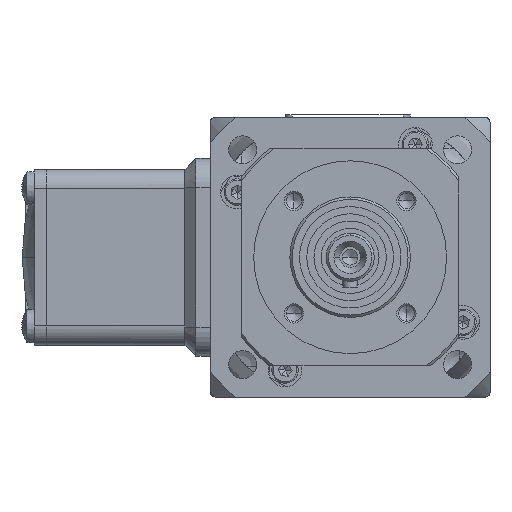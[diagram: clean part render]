
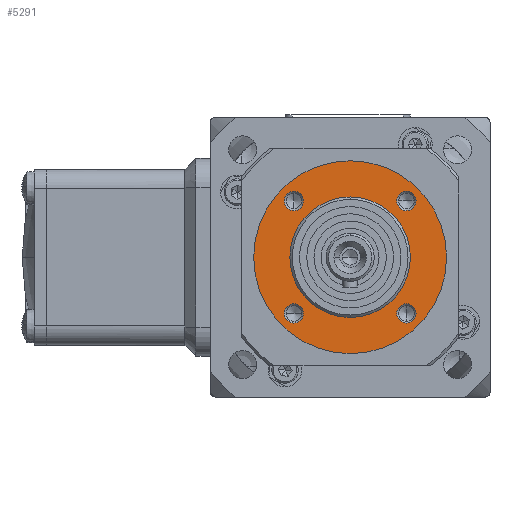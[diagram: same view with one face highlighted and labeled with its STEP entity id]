
A CAD part, left-side view. The second image highlights one B-rep face of the part: STEP entity #5291.
In plain terms, the highlighted planar face has unit normal (-1, 0, 0).
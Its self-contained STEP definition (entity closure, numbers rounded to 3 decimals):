
#5291=ADVANCED_FACE('',(#8640,#8641,#8642,#8643,#8644,#8645),#8646,.T.);
#8640=FACE_OUTER_BOUND('',#13762,.T.);
#8641=FACE_BOUND('',#13763,.T.);
#8642=FACE_BOUND('',#13764,.T.);
#8643=FACE_BOUND('',#13765,.T.);
#8644=FACE_BOUND('',#13766,.T.);
#8645=FACE_BOUND('',#13767,.T.);
#8646=PLANE('',#13768);
#13762=EDGE_LOOP('',(#18418,#18419));
#13763=EDGE_LOOP('',(#18420,#18421));
#13764=EDGE_LOOP('',(#18422,#18423));
#13765=EDGE_LOOP('',(#18424,#18425));
#13766=EDGE_LOOP('',(#18426,#18427));
#13767=EDGE_LOOP('',(#18428,#18429));
#13768=AXIS2_PLACEMENT_3D('',#18430,#18431,#18432);
#18418=ORIENTED_EDGE('',*,*,#20826,.F.);
#18419=ORIENTED_EDGE('',*,*,#20953,.F.);
#18420=ORIENTED_EDGE('',*,*,#22569,.T.);
#18421=ORIENTED_EDGE('',*,*,#21784,.T.);
#18422=ORIENTED_EDGE('',*,*,#21871,.T.);
#18423=ORIENTED_EDGE('',*,*,#22570,.T.);
#18424=ORIENTED_EDGE('',*,*,#21649,.T.);
#18425=ORIENTED_EDGE('',*,*,#22571,.T.);
#18426=ORIENTED_EDGE('',*,*,#21498,.T.);
#18427=ORIENTED_EDGE('',*,*,#22572,.T.);
#18428=ORIENTED_EDGE('',*,*,#21668,.T.);
#18429=ORIENTED_EDGE('',*,*,#21183,.T.);
#18430=CARTESIAN_POINT('',(-133.625,0.,-72.125));
#18431=DIRECTION('',(-1.0,0.0,0.0));
#18432=DIRECTION('',(0.0,1.0,0.));
#20826=EDGE_CURVE('',#24150,#24145,#24152,.T.);
#20953=EDGE_CURVE('',#24145,#24150,#24376,.T.);
#21183=EDGE_CURVE('',#24750,#24754,#24756,.T.);
#21498=EDGE_CURVE('',#25285,#25283,#25286,.T.);
#21649=EDGE_CURVE('',#25540,#25538,#25541,.T.);
#21668=EDGE_CURVE('',#24754,#24750,#25572,.T.);
#21784=EDGE_CURVE('',#25762,#25764,#25766,.T.);
#21871=EDGE_CURVE('',#25913,#25911,#25914,.T.);
#22569=EDGE_CURVE('',#25764,#25762,#27059,.T.);
#22570=EDGE_CURVE('',#25911,#25913,#27060,.T.);
#22571=EDGE_CURVE('',#25538,#25540,#27061,.T.);
#22572=EDGE_CURVE('',#25283,#25285,#27062,.T.);
#24145=VERTEX_POINT('',#29740);
#24150=VERTEX_POINT('',#29746);
#24152=CIRCLE('',#29749,20.0);
#24376=CIRCLE('',#30111,20.0);
#24750=VERTEX_POINT('',#30718);
#24754=VERTEX_POINT('',#30723);
#24756=CIRCLE('',#30726,12.5);
#25283=VERTEX_POINT('',#31600);
#25285=VERTEX_POINT('',#31603);
#25286=CIRCLE('',#31604,2.0);
#25538=VERTEX_POINT('',#31986);
#25540=VERTEX_POINT('',#31989);
#25541=CIRCLE('',#31990,2.0);
#25572=CIRCLE('',#32032,12.5);
#25762=VERTEX_POINT('',#32350);
#25764=VERTEX_POINT('',#32353);
#25766=CIRCLE('',#32356,2.0);
#25911=VERTEX_POINT('',#32569);
#25913=VERTEX_POINT('',#32572);
#25914=CIRCLE('',#32573,2.0);
#27059=CIRCLE('',#34466,2.0);
#27060=CIRCLE('',#34467,2.0);
#27061=CIRCLE('',#34468,2.0);
#27062=CIRCLE('',#34469,2.0);
#29740=CARTESIAN_POINT('',(-133.625,0.,-82.125));
#29746=CARTESIAN_POINT('',(-133.625,0.,-42.125));
#29749=AXIS2_PLACEMENT_3D('',#38299,#38300,#38301);
#30111=AXIS2_PLACEMENT_3D('',#38494,#38495,#38496);
#30718=CARTESIAN_POINT('',(-133.625,0.,-74.625));
#30723=CARTESIAN_POINT('',(-133.625,0.,-49.625));
#30726=AXIS2_PLACEMENT_3D('',#38733,#38734,#38735);
#31600=CARTESIAN_POINT('',(-133.625,13.667,-73.792));
#31603=CARTESIAN_POINT('',(-133.625,9.667,-73.792));
#31604=AXIS2_PLACEMENT_3D('',#39120,#39121,#39122);
#31986=CARTESIAN_POINT('',(-133.625,11.667,-48.458));
#31989=CARTESIAN_POINT('',(-133.625,11.667,-52.458));
#31990=AXIS2_PLACEMENT_3D('',#39293,#39294,#39295);
#32032=AXIS2_PLACEMENT_3D('',#39313,#39314,#39315);
#32350=CARTESIAN_POINT('',(-133.625,-11.667,-75.792));
#32353=CARTESIAN_POINT('',(-133.625,-11.667,-71.792));
#32356=AXIS2_PLACEMENT_3D('',#39430,#39431,#39432);
#32569=CARTESIAN_POINT('',(-133.625,-13.667,-50.458));
#32572=CARTESIAN_POINT('',(-133.625,-9.667,-50.458));
#32573=AXIS2_PLACEMENT_3D('',#39542,#39543,#39544);
#34466=AXIS2_PLACEMENT_3D('',#40340,#40341,#40342);
#34467=AXIS2_PLACEMENT_3D('',#40343,#40344,#40345);
#34468=AXIS2_PLACEMENT_3D('',#40346,#40347,#40348);
#34469=AXIS2_PLACEMENT_3D('',#40349,#40350,#40351);
#38299=CARTESIAN_POINT('',(-133.625,0.0,-62.125));
#38300=DIRECTION('',(1.0,0.0,0.0));
#38301=DIRECTION('',(0.0,0.,-1.0));
#38494=CARTESIAN_POINT('',(-133.625,0.0,-62.125));
#38495=DIRECTION('',(1.0,0.0,0.0));
#38496=DIRECTION('',(0.0,0.,-1.0));
#38733=CARTESIAN_POINT('',(-133.625,0.0,-62.125));
#38734=DIRECTION('',(1.0,0.0,0.0));
#38735=DIRECTION('',(0.0,0.,-1.0));
#39120=CARTESIAN_POINT('',(-133.625,11.667,-73.792));
#39121=DIRECTION('',(1.0,0.0,-0.0));
#39122=DIRECTION('',(0.0,1.0,0.));
#39293=CARTESIAN_POINT('',(-133.625,11.667,-50.458));
#39294=DIRECTION('',(1.0,0.0,0.0));
#39295=DIRECTION('',(0.0,0.,1.0));
#39313=CARTESIAN_POINT('',(-133.625,0.0,-62.125));
#39314=DIRECTION('',(1.0,0.0,0.0));
#39315=DIRECTION('',(0.0,0.,-1.0));
#39430=CARTESIAN_POINT('',(-133.625,-11.667,-73.792));
#39431=DIRECTION('',(1.0,0.0,0.0));
#39432=DIRECTION('',(0.0,0.,-1.0));
#39542=CARTESIAN_POINT('',(-133.625,-11.667,-50.458));
#39543=DIRECTION('',(1.0,0.0,0.0));
#39544=DIRECTION('',(0.0,-1.0,0.));
#40340=CARTESIAN_POINT('',(-133.625,-11.667,-73.792));
#40341=DIRECTION('',(1.0,0.0,0.0));
#40342=DIRECTION('',(0.0,0.,-1.0));
#40343=CARTESIAN_POINT('',(-133.625,-11.667,-50.458));
#40344=DIRECTION('',(1.0,0.0,0.0));
#40345=DIRECTION('',(0.0,-1.0,0.));
#40346=CARTESIAN_POINT('',(-133.625,11.667,-50.458));
#40347=DIRECTION('',(1.0,0.0,0.0));
#40348=DIRECTION('',(0.0,0.,1.0));
#40349=CARTESIAN_POINT('',(-133.625,11.667,-73.792));
#40350=DIRECTION('',(1.0,0.0,-0.0));
#40351=DIRECTION('',(0.0,1.0,0.));
